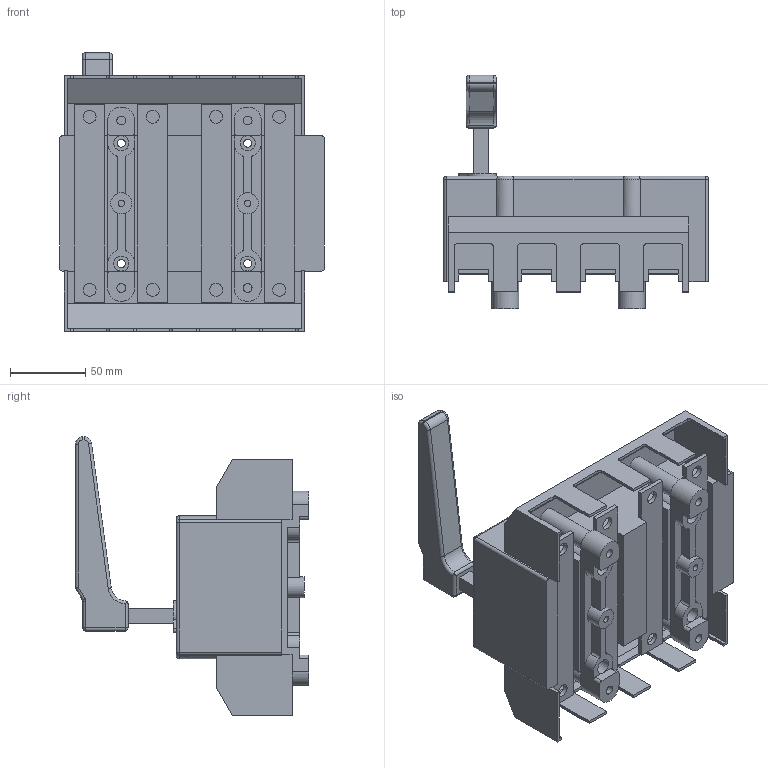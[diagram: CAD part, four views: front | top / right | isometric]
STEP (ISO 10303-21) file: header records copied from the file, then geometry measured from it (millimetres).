
FILE_DESCRIPTION(/* description */ (''),/* implementation_level */ '2;1');
FILE_NAME(/* name */ 'RA160 P3 N-R z oslona zaciskow.stp',/* time_stamp */ '2021-08-17T13:39:29+02:00',/* author */ (''),/* organization */ (''),/* preprocessor_version */ 'ST-DEVELOPER v18.1',/* originating_system */ 'SIEMENS PLM Software NX 1965',/* authorisation */ '');
FILE_SCHEMA (('AUTOMOTIVE_DESIGN { 1 0 10303 214 3 1 1 1 }'));
Length unit declared in the file: millimetre
Products named in the file (1): RA160 P3 N-R z oslona zaciskow nowy
Bounding box: 176 x 155 x 184.9 mm (x, y, z)
Volume: 1250705.4 mm3; surface area: 169608.7 mm2
Topology: 1 solids, 1 shells, 338 faces, 947 edges, 608 vertices
Faces by surface type: plane 186, cylinder 130, torus 12, sphere 10
Full cylindrical faces by diameter (mm): 4.3 x2, 5.3 x4, 5.8 x4, 8.5 x8, 10 x12, 13 x4, 14 x2
Entity records: 10720 total; most frequent: CARTESIAN_POINT 1982, DIRECTION 1829, ORIENTED_EDGE 1762, EDGE_CURVE 881, AXIS2_PLACEMENT_3D 623, LINE 583, VECTOR 583, VERTEX_POINT 580
